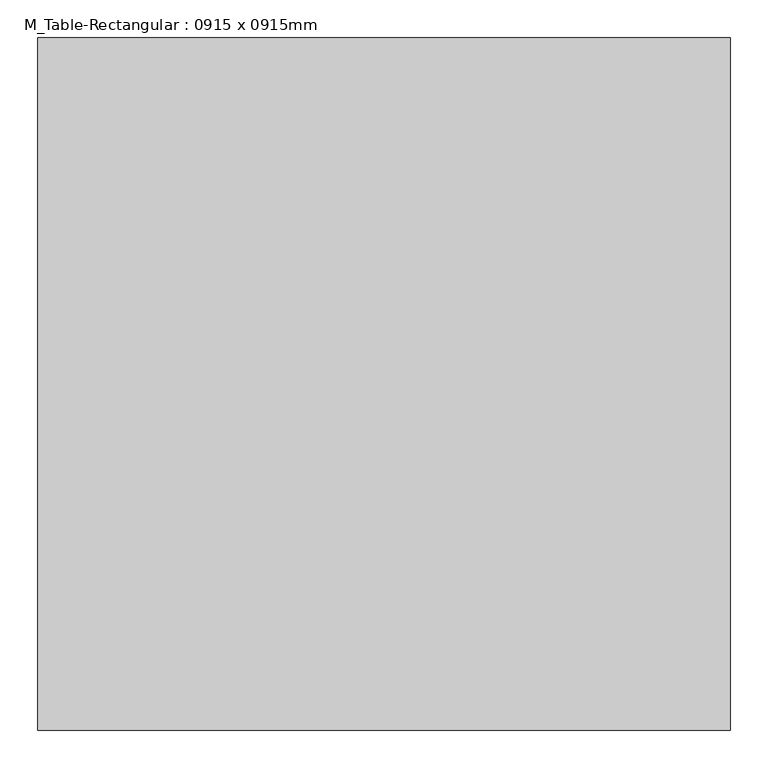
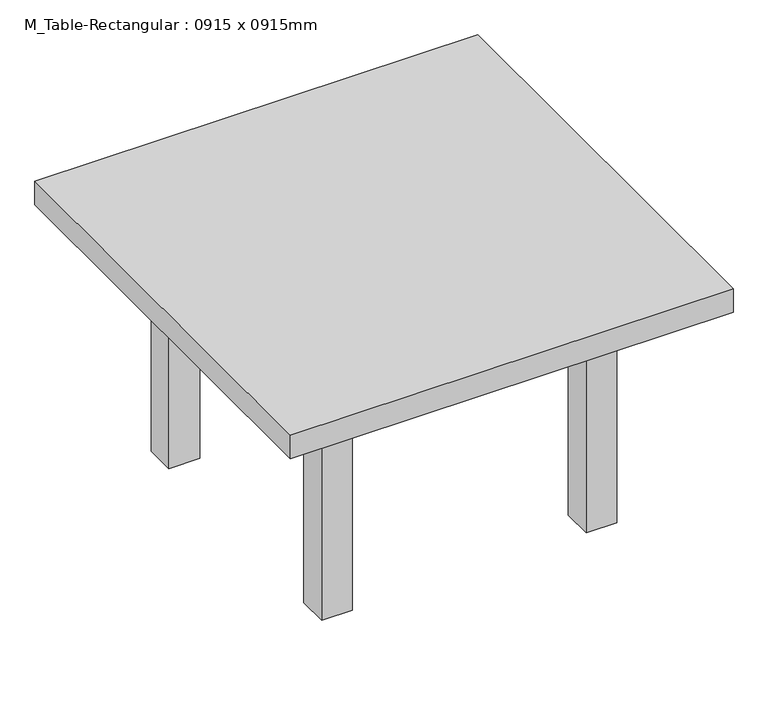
"""IFC4 building model written with IfcOpenShell, lengths in millimetres: furniture geometry, M_Table-Rectangular : 0915 x 0915mm."""

from ifc_helpers import new_model, si_unit, frame, origin, origin_with_axes, place, context, project, spatial, polyline, outline, extrude, source, transform, mapped, element, save


def m_table_rectangular_0915_x_0915mm_f905f5f6(model_context):
    return source(origin(), model_context, "Body", "SweptSolid", [
        extrude(outline(polyline([(241.6, 267.0), (241.6, 241.6), (-241.6, 241.6), (-241.6, 267.0), (241.6, 267.0)])), frame((0.0, 0.0, 397.6), z_axis=(0.0, 0.0, 1.0), x_axis=(1.0, 0.0, 0.0)), (0.0, 0.0, 1.0), 101.6),
        extrude(outline(polyline([(241.6, -267.0), (-241.6, -267.0), (-241.6, -241.6), (241.6, -241.6), (241.6, -267.0)])), frame((0.0, 0.0, 397.6), z_axis=(0.0, 0.0, 1.0), x_axis=(1.0, 0.0, 0.0)), (0.0, 0.0, 1.0), 101.6),
        extrude(outline(polyline([(-254.3, -241.6), (-279.7, -241.6), (-279.7, 241.6), (-254.3, 241.6), (-254.3, -241.6)])), frame((0.0, 0.0, 397.6), z_axis=(0.0, 0.0, 1.0), x_axis=(1.0, 0.0, 0.0)), (0.0, 0.0, 1.0), 101.6),
        extrude(outline(polyline([(254.3, -241.6), (254.3, 241.6), (279.7, 241.6), (279.7, -241.6), (254.3, -241.6)])), frame((0.0, 0.0, 397.6), z_axis=(0.0, 0.0, 1.0), x_axis=(1.0, 0.0, 0.0)), (0.0, 0.0, 1.0), 101.6),
        extrude(outline(polyline([(457.5, 457.5), (457.5, -457.5), (-457.5, -457.5), (-457.5, 457.5), (457.5, 457.5)])), frame((0.0, 0.0, 499.2), z_axis=(0.0, 0.0, 1.0), x_axis=(1.0, 0.0, 0.0)), (0.0, 0.0, 1.0), 50.8),
        extrude(outline(polyline([(-241.6, 305.1), (-241.6, 241.6), (-305.1, 241.6), (-305.1, 305.1), (-241.6, 305.1)])), origin_with_axes(), (0.0, 0.0, 1.0), 499.2),
        extrude(outline(polyline([(241.6, 305.1), (305.1, 305.1), (305.1, 241.6), (241.6, 241.6), (241.6, 305.1)])), origin_with_axes(), (0.0, 0.0, 1.0), 499.2),
        extrude(outline(polyline([(-241.6, -305.1), (-305.1, -305.1), (-305.1, -241.6), (-241.6, -241.6), (-241.6, -305.1)])), origin_with_axes(), (0.0, 0.0, 1.0), 499.2),
        extrude(outline(polyline([(241.6, -305.1), (241.6, -241.6), (305.1, -241.6), (305.1, -305.1), (241.6, -305.1)])), origin_with_axes(), (0.0, 0.0, 1.0), 499.2),
    ])


if __name__ == "__main__":
    model = new_model("IFC4")
    model_context = context("Model", 3, world=origin())
    ifc_project = project(units=[si_unit("LENGTHUNIT", "METRE", prefix="MILLI")], contexts=[model_context])
    site = spatial("IfcSite", under=ifc_project)
    building = spatial("IfcBuilding", under=site)
    placement = place(None, origin())
    m_table_rectangular_0915_x_0915mm_shape = m_table_rectangular_0915_x_0915mm_f905f5f6(model_context)
    element("IfcFurniture", 1, ObjectType="M_Table-Rectangular : 0915 x 0915mm", at=placement, inside=building, context=model_context, shape_type="MappedRepresentation", body=[
        mapped(m_table_rectangular_0915_x_0915mm_shape, transform((0.0, 0.0, 0.0), x_axis=(1.0, 0.0, 0.0), y_axis=(0.0, 1.0, 0.0), z_axis=(0.0, 0.0, 1.0))),
    ])
    save(model, "model.ifc")
